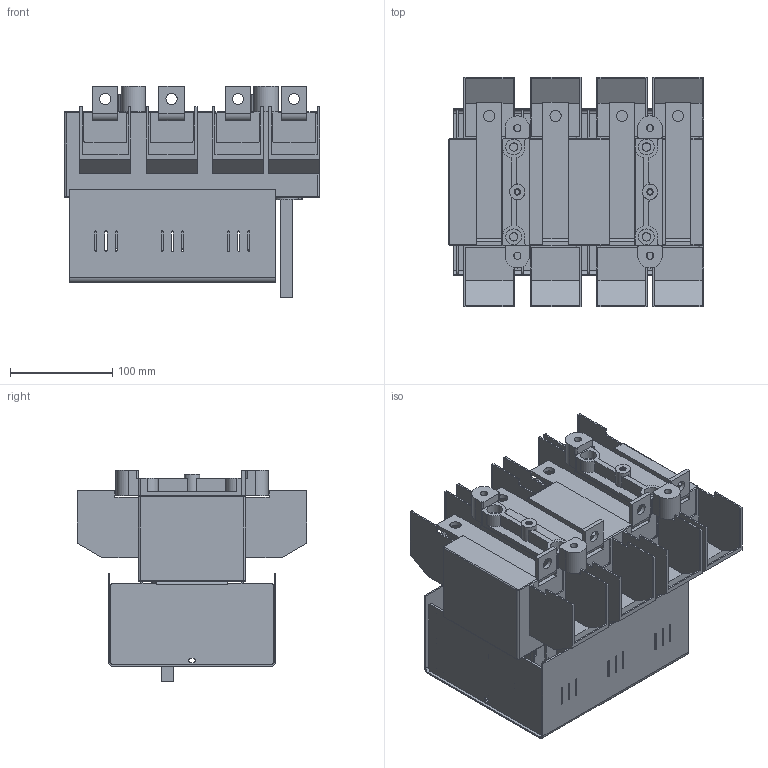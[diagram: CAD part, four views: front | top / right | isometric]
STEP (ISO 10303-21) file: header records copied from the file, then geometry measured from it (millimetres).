
FILE_DESCRIPTION(/* description */ (''),/* implementation_level */ '2;1');
FILE_NAME(/* name */ 'RAB 1 P3 NA z oslona zaciskow.stp',/* time_stamp */ '2021-08-19T12:40:06+02:00',/* author */ (''),/* organization */ (''),/* preprocessor_version */ 'ST-DEVELOPER v18.1',/* originating_system */ 'SIEMENS PLM Software NX 1965',/* authorisation */ '');
FILE_SCHEMA (('AUTOMOTIVE_DESIGN { 1 0 10303 214 3 1 1 1 }'));
Length unit declared in the file: millimetre
Products named in the file (1): RAB 1 P3 NA z oslona zaciskow_stp
Bounding box: 250 x 225 x 207.3 mm (x, y, z)
Volume: 2589712.8 mm3; surface area: 602483 mm2
Topology: 1 solids, 1 shells, 1220 faces, 3406 edges, 2226 vertices
Faces by surface type: plane 854, cylinder 358, torus 5, bspline 3
Full cylindrical faces by diameter (mm): 4.8 x2, 6.2 x2, 7 x4, 8.2 x4, 11 x8, 14 x4, 15 x2, 15.5 x4
Entity records: 39077 total; most frequent: CARTESIAN_POINT 6902, ORIENTED_EDGE 6744, DIRECTION 6552, EDGE_CURVE 3372, LINE 2616, VECTOR 2616, VERTEX_POINT 2222, AXIS2_PLACEMENT_3D 1968
